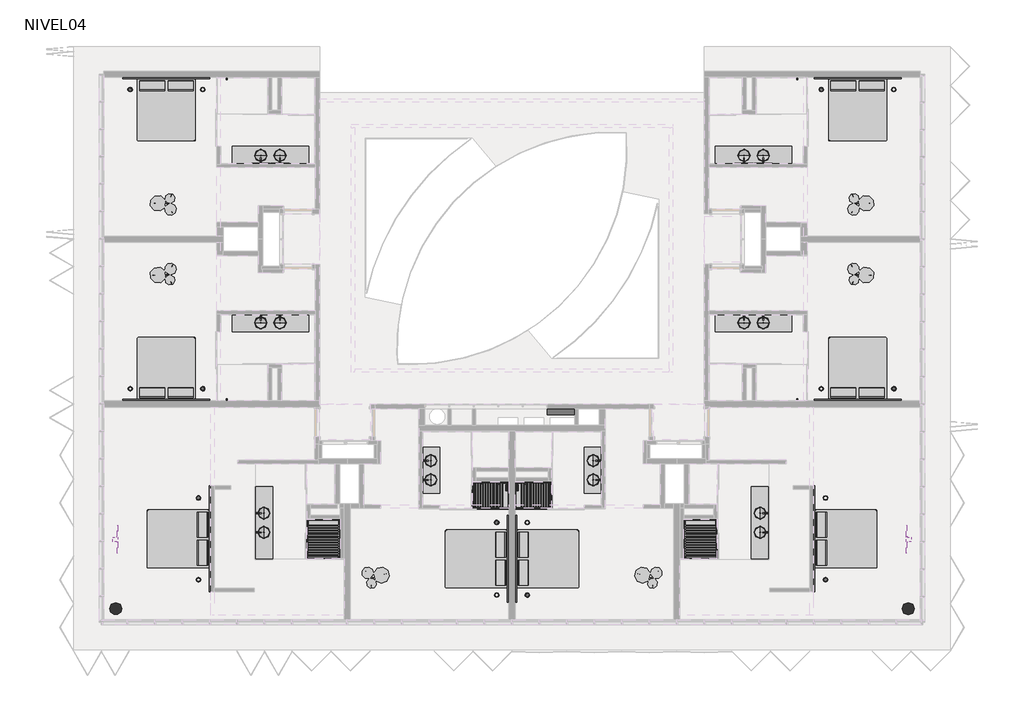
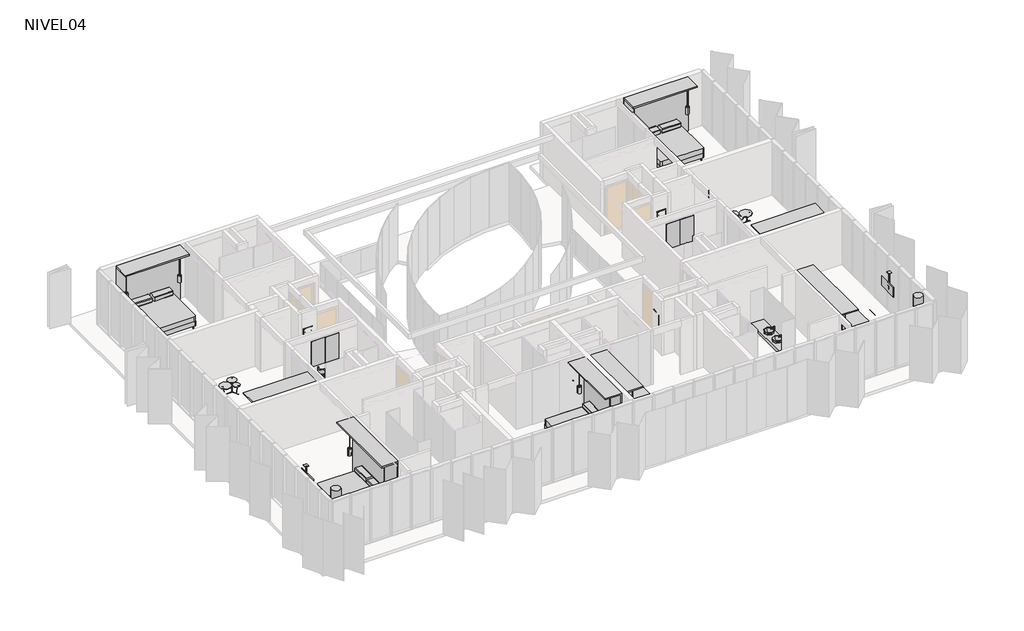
# One storey, part 8 of 8: 63 flow terminals, 16 light fixtures, 14 furniture elements, 10 beams, 10 proxies, 2 columns.
"""IFC4 building model written with IfcOpenShell, lengths in millimetres."""

from ifc_helpers import new_model, si_unit, frame, origin, place, context, project, spatial, polyline, outline, extrude, faceted_brep, transform, mapped, element, save
from components import proxy_f2abb529, proxy_77f56c46, gw40109_410x878x160_c00fe912, gw40109_410x878x160_de583994, m_round_column_d_400_48e12016, m_round_column_d_400_bf70b7f6, flow_terminal_0c8ecf02, flow_terminal_b279ac32, flow_terminal_ed776ef0, flow_terminal_606d7820, flow_terminal_b09b52e7, flow_terminal_6561b867, flow_terminal_bd7e037a, flow_terminal_74c15a22, flow_terminal_776c35a8, flow_terminal_72b990a2, flow_terminal_ff75b144, flow_terminal_cd0a1a3c, flow_terminal_6d8cc725, flow_terminal_ec843122, flow_terminal_4fa0bb3f, flow_terminal_b75d90eb, flow_terminal_60x_120_5cc20310, flow_terminal_60x_120_ec79c8a1, bottle_trap_flow_star_s_chrome_1cd5e6a8, bottle_trap_flow_star_s_chrome_f36f63c9, bottle_trap_flow_star_s_chrome_bf7072b5, bottle_trap_flow_star_s_chrome_7d8e5f45, gf_shower_mixer_5467fb75, gf_shower_mixer_4253410c, type_1_5bda6d84, furniture_922720f4, furniture_a362b857, furniture_83d6330f, furniture_52f5ca33, bubble_e683490c, bubble_cea61c99, lighting_fixture_pendant_contech_lighting_ci6_not_a_type_87ea05c9, lighting_fixture_pendant_contech_lighting_ci6_not_a_type_9c6e3dd4

model = new_model("IFC4")

# Units and contexts
model_context = context("Model", 3, world=origin())
ifc_project = project(units=[si_unit("LENGTHUNIT", "METRE", prefix="MILLI")], contexts=[model_context])

# Site, building, storey
site = spatial("IfcSite", under=ifc_project)
building = spatial("IfcBuilding", under=site)
storey = spatial("IfcBuildingStorey", under=building, Name="NIVEL04", Elevation=7940.0)

# Beams
placement = place(None, origin())
element("IfcBeam", 1, ObjectType="H-A- VIGAS RECTANGULARES : V. 40/30", at=placement, inside=storey, context=model_context, shape_type="SweptSolid", body=[
    extrude(outline(polyline([(-19978.5934748, 5233.9139241), (-20378.5934748, 5233.9139241), (-20378.5934748, 10433.9139241), (-19978.5934748, 10433.9139241), (-19978.5934748, 5233.9139241)])), frame((0.0, 0.0, 7620.0), z_axis=(0.0, 0.0, 1.0), x_axis=(1.0, 0.0, 0.0)), (0.0, 0.0, 1.0), 300.0),
])
element("IfcBeam", 2, ObjectType="H-A- VIGAS RECTANGULARES : V. 40/30", at=placement, inside=storey, context=model_context, shape_type="Brep", body=[
    faceted_brep([(5611.4065252, -7185.2015033, 7920.0), (5611.4065252, -7185.2015033, 7620.0), (6011.4065252, -7185.2015033, 7620.0), (6011.4065252, -7185.2015033, 7920.0), (6011.4065252, -166.0860759, 7920.0), (5611.4065252, -166.0860759, 7920.0), (5611.4065252, -6785.2015033, 7920.0), (6011.4065252, -166.0860759, 7620.0), (5611.4065252, -6785.2015033, 7620.0), (5611.4065252, -166.0860759, 7620.0)], [[[0, 1, 2, 3]], [[3, 4, 5, 6, 0]], [[2, 7, 4, 3]], [[1, 8, 9, 7, 2]], [[0, 6, 5, 9, 8, 1]], [[5, 4, 7, 9]]]),
])
element("IfcBeam", 3, ObjectType="H-A- VIGAS RECTANGULARES : V. 40/30", at=placement, inside=storey, context=model_context, shape_type="SweptSolid", body=[
    extrude(outline(polyline([(-1773.5934748, -7185.2015033), (-1773.5934748, -6785.2015033), (5611.4065252, -6785.2015033), (5611.4065252, -7185.2015033), (-1773.5934748, -7185.2015033)])), frame((0.0, 0.0, 7620.0), z_axis=(0.0, 0.0, 1.0), x_axis=(1.0, 0.0, 0.0)), (0.0, 0.0, 1.0), 300.0),
])
element("IfcBeam", 4, ObjectType="H-A- VIGAS RECTANGULARES : V. 40/30", at=placement, inside=storey, context=model_context, shape_type="Brep", body=[
    faceted_brep([(-20378.5934748, -7185.2015033, 7620.0), (-19978.5934748, -7185.2015033, 7620.0), (-19978.5934748, -7185.2015033, 7770.0), (-20378.5934748, -7185.2015033, 7770.0), (-20378.5934748, -166.0860759, 7620.0), (-20378.5934748, -166.0860759, 7770.0), (-19978.5934748, -166.0860759, 7620.0), (-19978.5934748, -6785.2015033, 7620.0), (-19978.5934748, -166.0860759, 7770.0)], [[[0, 1, 2, 3]], [[4, 0, 3, 5]], [[1, 0, 4, 6, 7]], [[1, 7, 6, 8, 2]], [[3, 2, 8, 5]], [[6, 4, 5, 8]]]),
])
element("IfcBeam", 5, ObjectType="H-A- VIGAS RECTANGULARES : V. 40/30", at=placement, inside=storey, context=model_context, shape_type="Brep", body=[
    faceted_brep([(-12593.5934748, -7185.2015033, 7920.0), (-12593.5934748, -6785.2015033, 7920.0), (-19978.5934748, -6785.2015033, 7920.0), (-19978.5934748, -7185.2015033, 7920.0), (-12593.5934748, -6785.2015033, 7620.0), (-19978.5934748, -6785.2015033, 7620.0), (-12593.5934748, -7185.2015033, 7620.0), (-19978.5934748, -7185.2015033, 7620.0), (-19978.5934748, -7185.2015033, 7770.0)], [[[0, 1, 2, 3]], [[1, 4, 5, 2]], [[4, 6, 7, 5]], [[6, 0, 3, 8, 7]], [[3, 2, 5, 7, 8]], [[0, 6, 4, 1]]]),
])
element("IfcBeam", 6, ObjectType="H-A- VIGAS RECTANGULARES : V. 40/30", at=placement, inside=storey, context=model_context, shape_type="SweptSolid", body=[
    extrude(outline(polyline([(-1773.5934748, -7185.2015033), (-7283.5934748, -7185.2015033), (-7283.5934748, -6785.2015033), (-1773.5934748, -6785.2015033), (-1773.5934748, -7185.2015033)])), frame((0.0, 0.0, 7620.0), z_axis=(0.0, 0.0, 1.0), x_axis=(1.0, 0.0, 0.0)), (0.0, 0.0, 1.0), 300.0),
])
element("IfcBeam", 7, ObjectType="H-A- VIGAS RECTANGULARES : V. 40/30", at=placement, inside=storey, context=model_context, shape_type="SweptSolid", body=[
    extrude(outline(polyline([(-12593.5934748, -7185.2015033), (-12593.5934748, -6785.2015033), (-7283.5934748, -6785.2015033), (-7283.5934748, -7185.2015033), (-12593.5934748, -7185.2015033)])), frame((0.0, 0.0, 7620.0), z_axis=(0.0, 0.0, 1.0), x_axis=(1.0, 0.0, 0.0)), (0.0, 0.0, 1.0), 300.0),
])
element("IfcBeam", 8, ObjectType="H-A- VIGAS RECTANGULARES : V. 40/30", at=placement, inside=storey, context=model_context, shape_type="SweptSolid", body=[
    extrude(outline(polyline([(5611.4065252, 5233.9139241), (5611.4065252, 10433.9139241), (6011.4065252, 10433.9139241), (6011.4065252, 5233.9139241), (5611.4065252, 5233.9139241)])), frame((0.0, 0.0, 7620.0), z_axis=(0.0, 0.0, 1.0), x_axis=(1.0, 0.0, 0.0)), (0.0, 0.0, 1.0), 300.0),
])
element("IfcBeam", 9, ObjectType="H-A- VIGAS RECTANGULARES : V. 40/30", at=placement, inside=storey, context=model_context, shape_type="Brep", body=[
    faceted_brep([(-20378.5934748, 5233.9139241, 7920.0), (-20378.5934748, -166.0860759, 7920.0), (-19978.5934748, -166.0860759, 7920.0), (-19978.5934748, 5233.9139241, 7920.0), (-20378.5934748, 5233.9139241, 7620.0), (-20378.5934748, -166.0860759, 7620.0), (-20378.5934748, -166.0860759, 7770.0), (-19978.5934748, 5233.9139241, 7620.0), (-19978.5934748, -166.0860759, 7620.0), (-19978.5934748, -166.0860759, 7770.0)], [[[0, 1, 2, 3]], [[4, 5, 6, 1, 0]], [[7, 8, 5, 4]], [[3, 2, 9, 8, 7]], [[3, 7, 4, 0]], [[2, 1, 6, 5, 8, 9]]]),
])
element("IfcBeam", 10, ObjectType="H-A- VIGAS RECTANGULARES : V. 40/30", at=placement, inside=storey, context=model_context, shape_type="SweptSolid", body=[
    extrude(outline(polyline([(5611.4065252, 5233.9139241), (6011.4065252, 5233.9139241), (6011.4065252, -166.0860759), (5611.4065252, -166.0860759), (5611.4065252, 5233.9139241)])), frame((0.0, 0.0, 7620.0), z_axis=(0.0, 0.0, 1.0), x_axis=(1.0, 0.0, 0.0)), (0.0, 0.0, 1.0), 300.0),
])

# Proxies
proxy_shape = proxy_f2abb529(model_context)
element("IfcBuildingElementProxy", 11, Name="A5215 - Bracket, Television, Ceiling Mounted 36 x 6 : A5215 - Bracket, Television, Ceiling Mounted 36\"x 6\"", ObjectType="A5215 - Bracket, Television, Ceiling Mounted 36 x 6 : A5215 - Bracket, Television, Ceiling Mounted 36\"x 6\"", at=placement, inside=storey, context=model_context, shape_type="MappedRepresentation", body=[
    mapped(proxy_shape, transform((6192.4065252, -5081.9984384, 9476.4), x_axis=(0.0, -1.0, 0.0), y_axis=(1.0, 0.0, 0.0), z_axis=(0.0, 0.0, 1.0))),
])
proxy_2_shape = proxy_77f56c46(model_context)
element("IfcBuildingElementProxy", 12, Name="A5215 - Bracket, Television, Ceiling Mounted 36 x 6 : A5215 - Bracket, Television, Ceiling Mounted 36\"x 6\"", ObjectType="A5215 - Bracket, Television, Ceiling Mounted 36 x 6 : A5215 - Bracket, Television, Ceiling Mounted 36\"x 6\"", at=placement, inside=storey, context=model_context, shape_type="MappedRepresentation", body=[
    mapped(proxy_2_shape, transform((-20559.5934748, -5081.9984384, 9476.4), x_axis=(0.0, -1.0, 0.0), y_axis=(1.0, 0.0, 0.0), z_axis=(0.0, 0.0, 1.0))),
])
gw40109_410x878x160_shape = gw40109_410x878x160_c00fe912(model_context)
element("IfcBuildingElementProxy", 13, Name="Building-ContenitoriParete-GEWISS-40CDK-CENTRALINI_IP65_4X : GW40109 - 410x878x160", ObjectType="Building-ContenitoriParete-GEWISS-40CDK-CENTRALINI_IP65_4X : GW40109 - 410x878x160", at=placement, inside=storey, context=model_context, shape_type="MappedRepresentation", body=[
    mapped(gw40109_410x878x160_shape, transform((-2718.5934748, -1918.4487945, 8690.0), x_axis=(0.0, 1.0, 0.0), y_axis=(-1.0, 0.0, 0.0), z_axis=(0.0, 0.0, 1.0))),
])
gw40109_410x878x160_2_shape = gw40109_410x878x160_de583994(model_context)
element("IfcBuildingElementProxy", 14, Name="Building-ContenitoriParete-GEWISS-40CDK-CENTRALINI_IP65_4X : GW40109 - 410x878x160", ObjectType="Building-ContenitoriParete-GEWISS-40CDK-CENTRALINI_IP65_4X : GW40109 - 410x878x160", at=placement, inside=storey, context=model_context, shape_type="MappedRepresentation", body=[
    mapped(gw40109_410x878x160_2_shape, transform((-11648.5934748, -1918.4487945, 8690.0), x_axis=(0.0, 1.0, 0.0), y_axis=(-1.0, 0.0, 0.0), z_axis=(0.0, 0.0, 1.0))),
])
element("IfcBuildingElementProxy", 15, Name="Building-ContenitoriParete-GEWISS-40CDK-CENTRALINI_IP65_4X : GW40109 - 410x878x160", ObjectType="Building-ContenitoriParete-GEWISS-40CDK-CENTRALINI_IP65_4X : GW40109 - 410x878x160", at=placement, inside=storey, context=model_context, shape_type="MappedRepresentation", body=[
    mapped(gw40109_410x878x160_shape, transform((-888.5934748, -1668.4487945, 8690.0), x_axis=(0.0, -1.0, 0.0), y_axis=(1.0, 0.0, 0.0), z_axis=(0.0, 0.0, 1.0))),
])
element("IfcBuildingElementProxy", 16, Name="Building-ContenitoriParete-GEWISS-40CDK-CENTRALINI_IP65_4X : GW40109 - 410x878x160", ObjectType="Building-ContenitoriParete-GEWISS-40CDK-CENTRALINI_IP65_4X : GW40109 - 410x878x160", at=placement, inside=storey, context=model_context, shape_type="MappedRepresentation", body=[
    mapped(gw40109_410x878x160_shape, transform((572.0878844, 6068.9139241, 8690.0), x_axis=(1.0, 0.0, 0.0), y_axis=(0.0, 1.0, 0.0), z_axis=(0.0, 0.0, 1.0))),
])
element("IfcBuildingElementProxy", 17, Name="Building-ContenitoriParete-GEWISS-40CDK-CENTRALINI_IP65_4X : GW40109 - 410x878x160", ObjectType="Building-ContenitoriParete-GEWISS-40CDK-CENTRALINI_IP65_4X : GW40109 - 410x878x160", at=placement, inside=storey, context=model_context, shape_type="MappedRepresentation", body=[
    mapped(gw40109_410x878x160_shape, transform((-14939.2748341, 4198.9139241, 8690.0), x_axis=(-1.0, 0.0, 0.0), y_axis=(0.0, -1.0, 0.0), z_axis=(0.0, 0.0, 1.0))),
])
element("IfcBuildingElementProxy", 18, Name="Building-ContenitoriParete-GEWISS-40CDK-CENTRALINI_IP65_4X : GW40109 - 410x878x160", ObjectType="Building-ContenitoriParete-GEWISS-40CDK-CENTRALINI_IP65_4X : GW40109 - 410x878x160", at=placement, inside=storey, context=model_context, shape_type="MappedRepresentation", body=[
    mapped(gw40109_410x878x160_2_shape, transform((-13478.5934748, -1668.4487945, 8690.0), x_axis=(0.0, -1.0, 0.0), y_axis=(1.0, 0.0, 0.0), z_axis=(0.0, 0.0, 1.0))),
])
element("IfcBuildingElementProxy", 19, Name="Building-ContenitoriParete-GEWISS-40CDK-CENTRALINI_IP65_4X : GW40109 - 410x878x160", ObjectType="Building-ContenitoriParete-GEWISS-40CDK-CENTRALINI_IP65_4X : GW40109 - 410x878x160", at=placement, inside=storey, context=model_context, shape_type="MappedRepresentation", body=[
    mapped(gw40109_410x878x160_2_shape, transform((-14939.2748341, 6068.9139241, 8690.0), x_axis=(-1.0, 0.0, 0.0), y_axis=(0.0, -1.0, 0.0), z_axis=(0.0, 0.0, 1.0))),
])
element("IfcBuildingElementProxy", 20, Name="Building-ContenitoriParete-GEWISS-40CDK-CENTRALINI_IP65_4X : GW40109 - 410x878x160", ObjectType="Building-ContenitoriParete-GEWISS-40CDK-CENTRALINI_IP65_4X : GW40109 - 410x878x160", at=placement, inside=storey, context=model_context, shape_type="MappedRepresentation", body=[
    mapped(gw40109_410x878x160_2_shape, transform((572.0878844, 4198.9139241, 8690.0), x_axis=(1.0, 0.0, 0.0), y_axis=(0.0, 1.0, 0.0), z_axis=(0.0, 0.0, 1.0))),
])

# Columns
m_round_column_d_400_shape = m_round_column_d_400_48e12016(model_context)
element("IfcColumn", 21, ObjectType="M_Round Column : D-400", at=placement, inside=storey, context=model_context, shape_type="MappedRepresentation", body=[
    mapped(m_round_column_d_400_shape, transform((5797.2643895, -6971.0593676, 0.0), x_axis=(-1.0, 0.0, 0.0), y_axis=(0.0, -1.0, 0.0), z_axis=(0.0, 0.0, 1.0))),
])
m_round_column_d_400_2_shape = m_round_column_d_400_bf70b7f6(model_context)
element("IfcColumn", 22, ObjectType="M_Round Column : D-400", at=placement, inside=storey, context=model_context, shape_type="MappedRepresentation", body=[
    mapped(m_round_column_d_400_2_shape, transform((-20164.4513392, -6971.0593676, 0.0), x_axis=(1.0, 0.0, 0.0), y_axis=(0.0, 1.0, 0.0), z_axis=(0.0, 0.0, 1.0))),
])

# Flow terminals
flow_terminal_shape = flow_terminal_0c8ecf02(model_context)
element("IfcFlowTerminal", 23, ObjectType="Sanitary_Shower-trays_Cosentino_Kador : Kador_130*125", at=placement, inside=storey, context=model_context, shape_type="MappedRepresentation", body=[
    mapped(flow_terminal_shape, transform((-13363.5934748, -4686.0862189, 7940.0), x_axis=(0.0, -1.0, 0.0), y_axis=(1.0, 0.0, 0.0), z_axis=(0.0, 0.0, 1.0))),
])
flow_terminal_2_shape = flow_terminal_b279ac32(model_context)
element("IfcFlowTerminal", 24, ObjectType="Sanitary_Shower-trays_Cosentino_Kador : Kador_130*125", at=placement, inside=storey, context=model_context, shape_type="MappedRepresentation", body=[
    mapped(flow_terminal_2_shape, transform((-1003.5934748, -4686.0862189, 7940.0), x_axis=(0.0, -1.0, 0.0), y_axis=(1.0, 0.0, 0.0), z_axis=(0.0, 0.0, 1.0))),
])
flow_terminal_3_shape = flow_terminal_ed776ef0(model_context)
element("IfcFlowTerminal", 25, ObjectType="Sanitary_Shower-trays_Cosentino_Kador : Kador_130*125", at=placement, inside=storey, context=model_context, shape_type="MappedRepresentation", body=[
    mapped(flow_terminal_3_shape, transform((-7883.5934748, -3256.0362189, 7940.0), x_axis=(-1.0, 0.0, 0.0), y_axis=(0.0, -1.0, 0.0), z_axis=(0.0, 0.0, 1.0))),
])
flow_terminal_4_shape = flow_terminal_606d7820(model_context)
element("IfcFlowTerminal", 26, ObjectType="Sanitary_Shower-trays_Cosentino_Kador : Kador_130*125", at=placement, inside=storey, context=model_context, shape_type="MappedRepresentation", body=[
    mapped(flow_terminal_4_shape, transform((-6483.5934748, -3256.0362189, 7940.0), x_axis=(1.0, 0.0, 0.0), y_axis=(0.0, 1.0, 0.0), z_axis=(0.0, 0.0, 1.0))),
])
flow_terminal_5_shape = flow_terminal_b09b52e7(model_context)
element("IfcFlowTerminal", 27, ObjectType="CUBIERTA BAÑO : CUBIERTA BAÑO 150CM", at=placement, inside=storey, context=model_context, shape_type="MappedRepresentation", body=[
    mapped(flow_terminal_5_shape, transform((-10123.5934748, -2480.7864739, 7940.0), x_axis=(0.0, 1.0, 0.0), y_axis=(-1.0, 0.0, 0.0), z_axis=(0.0, 0.0, 1.0))),
])
flow_terminal_6_shape = flow_terminal_6561b867(model_context)
element("IfcFlowTerminal", 28, ObjectType="CUBIERTA BAÑO : CUBIERTA BAÑO 250CM", at=placement, inside=storey, context=model_context, shape_type="MappedRepresentation", body=[
    mapped(flow_terminal_6_shape, transform((776.1068516, 7593.9139241, 7920.0), x_axis=(-1.0, 0.0, 0.0), y_axis=(0.0, -1.0, 0.0), z_axis=(0.0, 0.0, 1.0))),
])
element("IfcFlowTerminal", 29, ObjectType="CUBIERTA BAÑO : CUBIERTA BAÑO 250CM", at=placement, inside=storey, context=model_context, shape_type="MappedRepresentation", body=[
    mapped(flow_terminal_6_shape, transform((-15143.2938013, 2673.9139241, 7920.0), x_axis=(1.0, 0.0, 0.0), y_axis=(0.0, 1.0, 0.0), z_axis=(0.0, 0.0, 1.0))),
])
flow_terminal_7_shape = flow_terminal_bd7e037a(model_context)
element("IfcFlowTerminal", 30, ObjectType="GF_TINA-LAVAMANOS : MEZCLADOR MONOMANDO DE LAVABO - MINUSVALIDOS", at=placement, inside=storey, context=model_context, shape_type="MappedRepresentation", body=[
    mapped(flow_terminal_7_shape, transform((-10073.5934748, -2751.0861474, 8690.0), x_axis=(0.0, 1.0, 0.0), y_axis=(-1.0, 0.0, 0.0), z_axis=(0.0, 0.0, 1.0))),
])
element("IfcFlowTerminal", 31, ObjectType="GF_TINA-LAVAMANOS : MEZCLADOR MONOMANDO DE LAVABO - MINUSVALIDOS", at=placement, inside=storey, context=model_context, shape_type="MappedRepresentation", body=[
    mapped(flow_terminal_7_shape, transform((-10073.5934748, -2121.0861474, 8690.0), x_axis=(0.0, 1.0, 0.0), y_axis=(-1.0, 0.0, 0.0), z_axis=(0.0, 0.0, 1.0))),
])
element("IfcFlowTerminal", 32, ObjectType="GF_TINA-LAVAMANOS : MEZCLADOR MONOMANDO DE LAVABO - MINUSVALIDOS", at=placement, inside=storey, context=model_context, shape_type="MappedRepresentation", body=[
    mapped(flow_terminal_7_shape, transform((-15543.5934748, -4471.0860763, 8690.0), x_axis=(0.0, 1.0, 0.0), y_axis=(-1.0, 0.0, 0.0), z_axis=(0.0, 0.0, 1.0))),
])
element("IfcFlowTerminal", 33, ObjectType="GF_TINA-LAVAMANOS : MEZCLADOR MONOMANDO DE LAVABO - MINUSVALIDOS", at=placement, inside=storey, context=model_context, shape_type="MappedRepresentation", body=[
    mapped(flow_terminal_7_shape, transform((-15543.5934748, -3841.0860763, 8690.0), x_axis=(0.0, 1.0, 0.0), y_axis=(-1.0, 0.0, 0.0), z_axis=(0.0, 0.0, 1.0))),
])
element("IfcFlowTerminal", 34, ObjectType="GF_TINA-LAVAMANOS : MEZCLADOR MONOMANDO DE LAVABO - MINUSVALIDOS", at=placement, inside=storey, context=model_context, shape_type="MappedRepresentation", body=[
    mapped(flow_terminal_7_shape, transform((1046.4065252, 7643.9139241, 8670.0), x_axis=(-1.0, 0.0, 0.0), y_axis=(0.0, -1.0, 0.0), z_axis=(0.0, 0.0, 1.0))),
])
element("IfcFlowTerminal", 35, ObjectType="GF_TINA-LAVAMANOS : MEZCLADOR MONOMANDO DE LAVABO - MINUSVALIDOS", at=placement, inside=storey, context=model_context, shape_type="MappedRepresentation", body=[
    mapped(flow_terminal_7_shape, transform((416.4065252, 7643.9139241, 8670.0), x_axis=(-1.0, 0.0, 0.0), y_axis=(0.0, -1.0, 0.0), z_axis=(0.0, 0.0, 1.0))),
])
element("IfcFlowTerminal", 36, ObjectType="GF_TINA-LAVAMANOS : MEZCLADOR MONOMANDO DE LAVABO - MINUSVALIDOS", at=placement, inside=storey, context=model_context, shape_type="MappedRepresentation", body=[
    mapped(flow_terminal_7_shape, transform((-15413.5934748, 2623.9139241, 8670.0), x_axis=(1.0, 0.0, 0.0), y_axis=(0.0, 1.0, 0.0), z_axis=(0.0, 0.0, 1.0))),
])
element("IfcFlowTerminal", 37, ObjectType="GF_TINA-LAVAMANOS : MEZCLADOR MONOMANDO DE LAVABO - MINUSVALIDOS", at=placement, inside=storey, context=model_context, shape_type="MappedRepresentation", body=[
    mapped(flow_terminal_7_shape, transform((-14783.5934748, 2623.9139241, 8670.0), x_axis=(1.0, 0.0, 0.0), y_axis=(0.0, 1.0, 0.0), z_axis=(0.0, 0.0, 1.0))),
])
flow_terminal_8_shape = flow_terminal_74c15a22(model_context)
element("IfcFlowTerminal", 38, ObjectType="GF_TINA-LAVAMANOS : MEZCLADOR MONOMANDO DE LAVABO - MINUSVALIDOS", at=placement, inside=storey, context=model_context, shape_type="MappedRepresentation", body=[
    mapped(flow_terminal_8_shape, transform((-15413.5934748, 7643.9139241, 8670.0), x_axis=(1.0, 0.0, 0.0), y_axis=(0.0, 1.0, 0.0), z_axis=(0.0, 0.0, 1.0))),
])
element("IfcFlowTerminal", 39, ObjectType="GF_TINA-LAVAMANOS : MEZCLADOR MONOMANDO DE LAVABO - MINUSVALIDOS", at=placement, inside=storey, context=model_context, shape_type="MappedRepresentation", body=[
    mapped(flow_terminal_8_shape, transform((-14783.5934748, 7643.9139241, 8670.0), x_axis=(1.0, 0.0, 0.0), y_axis=(0.0, 1.0, 0.0), z_axis=(0.0, 0.0, 1.0))),
])
element("IfcFlowTerminal", 40, ObjectType="GF_TINA-LAVAMANOS : MEZCLADOR MONOMANDO DE LAVABO - MINUSVALIDOS", at=placement, inside=storey, context=model_context, shape_type="MappedRepresentation", body=[
    mapped(flow_terminal_8_shape, transform((-4293.5934748, -2751.0861474, 8690.0), x_axis=(0.0, 1.0, 0.0), y_axis=(-1.0, 0.0, 0.0), z_axis=(0.0, 0.0, 1.0))),
])
element("IfcFlowTerminal", 41, ObjectType="GF_TINA-LAVAMANOS : MEZCLADOR MONOMANDO DE LAVABO - MINUSVALIDOS", at=placement, inside=storey, context=model_context, shape_type="MappedRepresentation", body=[
    mapped(flow_terminal_8_shape, transform((-4293.5934748, -2121.0861474, 8690.0), x_axis=(0.0, 1.0, 0.0), y_axis=(-1.0, 0.0, 0.0), z_axis=(0.0, 0.0, 1.0))),
])
element("IfcFlowTerminal", 42, ObjectType="GF_TINA-LAVAMANOS : MEZCLADOR MONOMANDO DE LAVABO - MINUSVALIDOS", at=placement, inside=storey, context=model_context, shape_type="MappedRepresentation", body=[
    mapped(flow_terminal_8_shape, transform((1176.4065252, -4471.0860763, 8690.0), x_axis=(0.0, 1.0, 0.0), y_axis=(-1.0, 0.0, 0.0), z_axis=(0.0, 0.0, 1.0))),
])
element("IfcFlowTerminal", 43, ObjectType="GF_TINA-LAVAMANOS : MEZCLADOR MONOMANDO DE LAVABO - MINUSVALIDOS", at=placement, inside=storey, context=model_context, shape_type="MappedRepresentation", body=[
    mapped(flow_terminal_8_shape, transform((1176.4065252, -3841.0860763, 8690.0), x_axis=(0.0, 1.0, 0.0), y_axis=(-1.0, 0.0, 0.0), z_axis=(0.0, 0.0, 1.0))),
])
element("IfcFlowTerminal", 44, ObjectType="GF_TINA-LAVAMANOS : MEZCLADOR MONOMANDO DE LAVABO - MINUSVALIDOS", at=placement, inside=storey, context=model_context, shape_type="MappedRepresentation", body=[
    mapped(flow_terminal_8_shape, transform((1046.4065252, 2623.9139241, 8670.0), x_axis=(-1.0, 0.0, 0.0), y_axis=(0.0, -1.0, 0.0), z_axis=(0.0, 0.0, 1.0))),
])
element("IfcFlowTerminal", 45, ObjectType="GF_TINA-LAVAMANOS : MEZCLADOR MONOMANDO DE LAVABO - MINUSVALIDOS", at=placement, inside=storey, context=model_context, shape_type="MappedRepresentation", body=[
    mapped(flow_terminal_8_shape, transform((416.4065252, 2623.9139241, 8670.0), x_axis=(-1.0, 0.0, 0.0), y_axis=(0.0, -1.0, 0.0), z_axis=(0.0, 0.0, 1.0))),
])
flow_terminal_9_shape = flow_terminal_776c35a8(model_context)
element("IfcFlowTerminal", 46, ObjectType="CUBIERTA BAÑO : CUBIERTA BAÑO 238CM", at=placement, inside=storey, context=model_context, shape_type="MappedRepresentation", body=[
    mapped(flow_terminal_9_shape, transform((-15593.5934748, -4200.7864027, 7940.0), x_axis=(0.0, 1.0, 0.0), y_axis=(-1.0, 0.0, 0.0), z_axis=(0.0, 0.0, 1.0))),
])
flow_terminal_10_shape = flow_terminal_72b990a2(model_context)
element("IfcFlowTerminal", 47, ObjectType="jabonera rejilla : jabonera rejilla", at=placement, inside=storey, context=model_context, shape_type="MappedRepresentation", body=[
    mapped(flow_terminal_10_shape, transform((-7293.5934748, -3006.0862189, 8890.0), x_axis=(0.0, -1.0, 0.0), y_axis=(1.0, 0.0, 0.0), z_axis=(0.0, 0.0, 1.0))),
])
flow_terminal_11_shape = flow_terminal_ff75b144(model_context)
element("IfcFlowTerminal", 48, ObjectType="CUBIERTA BAÑO : CUBIERTA BAÑO 150CM", at=placement, inside=storey, context=model_context, shape_type="MappedRepresentation", body=[
    mapped(flow_terminal_11_shape, transform((-4243.5934748, -2480.7864739, 7940.0), x_axis=(0.0, 1.0, 0.0), y_axis=(-1.0, 0.0, 0.0), z_axis=(0.0, 0.0, 1.0))),
])
flow_terminal_12_shape = flow_terminal_cd0a1a3c(model_context)
element("IfcFlowTerminal", 49, ObjectType="CUBIERTA BAÑO : CUBIERTA BAÑO 250CM", at=placement, inside=storey, context=model_context, shape_type="MappedRepresentation", body=[
    mapped(flow_terminal_12_shape, transform((-15143.2938013, 7593.9139241, 7920.0), x_axis=(1.0, 0.0, 0.0), y_axis=(0.0, 1.0, 0.0), z_axis=(0.0, 0.0, 1.0))),
])
element("IfcFlowTerminal", 50, ObjectType="CUBIERTA BAÑO : CUBIERTA BAÑO 250CM", at=placement, inside=storey, context=model_context, shape_type="MappedRepresentation", body=[
    mapped(flow_terminal_12_shape, transform((776.1068516, 2673.9139241, 7920.0), x_axis=(-1.0, 0.0, 0.0), y_axis=(0.0, -1.0, 0.0), z_axis=(0.0, 0.0, 1.0))),
])
flow_terminal_13_shape = flow_terminal_6d8cc725(model_context)
element("IfcFlowTerminal", 51, ObjectType="CUBIERTA BAÑO : CUBIERTA BAÑO 238CM", at=placement, inside=storey, context=model_context, shape_type="MappedRepresentation", body=[
    mapped(flow_terminal_13_shape, transform((1226.4065252, -4200.7864027, 7940.0), x_axis=(0.0, 1.0, 0.0), y_axis=(-1.0, 0.0, 0.0), z_axis=(0.0, 0.0, 1.0))),
])
flow_terminal_14_shape = flow_terminal_ec843122(model_context)
element("IfcFlowTerminal", 52, ObjectType="GrapBar-60cm-Vitra-OtherSeries-320-3010 : SupportRail-Vitra-OtherSeries-320-3010", at=placement, inside=storey, context=model_context, shape_type="MappedRepresentation", body=[
    mapped(flow_terminal_14_shape, transform((-7623.5047394, -2806.0860759, 9300.0), x_axis=(-1.0, 0.0, 0.0), y_axis=(0.0, 0.0, -1.0), z_axis=(0.0, -1.0, 0.0))),
])
flow_terminal_15_shape = flow_terminal_4fa0bb3f(model_context)
element("IfcFlowTerminal", 53, ObjectType="jabonera rejilla : jabonera rejilla", at=placement, inside=storey, context=model_context, shape_type="MappedRepresentation", body=[
    mapped(flow_terminal_15_shape, transform((-7073.5934748, -3006.0862189, 8890.0), x_axis=(0.0, -1.0, 0.0), y_axis=(1.0, 0.0, 0.0), z_axis=(0.0, 0.0, 1.0))),
])
flow_terminal_16_shape = flow_terminal_b75d90eb(model_context)
element("IfcFlowTerminal", 54, ObjectType="GrapBar-60cm-Vitra-OtherSeries-320-3010 : SupportRail-Vitra-OtherSeries-320-3010", at=placement, inside=storey, context=model_context, shape_type="MappedRepresentation", body=[
    mapped(flow_terminal_16_shape, transform((-6743.6822103, -2806.0860759, 9300.0), x_axis=(1.0, 0.0, 0.0), y_axis=(0.0, 0.0, 1.0), z_axis=(0.0, -1.0, 0.0))),
])
flow_terminal_60x_120_shape = flow_terminal_60x_120_5cc20310(model_context)
element("IfcFlowTerminal", 55, ObjectType="ESPEJO RECTANGULAR : 60x 120", at=placement, inside=storey, context=model_context, shape_type="MappedRepresentation", body=[
    mapped(flow_terminal_60x_120_shape, transform((-15413.5934748, 7598.9139241, 8340.0), x_axis=(1.0, 0.0, 0.0), y_axis=(0.0, 1.0, 0.0), z_axis=(0.0, 0.0, 1.0))),
])
element("IfcFlowTerminal", 56, ObjectType="ESPEJO RECTANGULAR : 60x 120", at=placement, inside=storey, context=model_context, shape_type="MappedRepresentation", body=[
    mapped(flow_terminal_60x_120_shape, transform((-14783.5934748, 7598.9139241, 8340.0), x_axis=(1.0, 0.0, 0.0), y_axis=(0.0, 1.0, 0.0), z_axis=(0.0, 0.0, 1.0))),
])
element("IfcFlowTerminal", 57, ObjectType="ESPEJO RECTANGULAR : 60x 120", at=placement, inside=storey, context=model_context, shape_type="MappedRepresentation", body=[
    mapped(flow_terminal_60x_120_shape, transform((1046.4065252, 2668.9139241, 8340.0), x_axis=(-1.0, 0.0, 0.0), y_axis=(0.0, -1.0, 0.0), z_axis=(0.0, 0.0, 1.0))),
])
element("IfcFlowTerminal", 58, ObjectType="ESPEJO RECTANGULAR : 60x 120", at=placement, inside=storey, context=model_context, shape_type="MappedRepresentation", body=[
    mapped(flow_terminal_60x_120_shape, transform((416.4065252, 2668.9139241, 8340.0), x_axis=(-1.0, 0.0, 0.0), y_axis=(0.0, -1.0, 0.0), z_axis=(0.0, 0.0, 1.0))),
])
flow_terminal_60x_120_2_shape = flow_terminal_60x_120_ec79c8a1(model_context)
element("IfcFlowTerminal", 59, ObjectType="ESPEJO RECTANGULAR : 60x 120", at=placement, inside=storey, context=model_context, shape_type="MappedRepresentation", body=[
    mapped(flow_terminal_60x_120_2_shape, transform((1046.4065252, 7598.9139241, 8340.0), x_axis=(-1.0, 0.0, 0.0), y_axis=(0.0, -1.0, 0.0), z_axis=(0.0, 0.0, 1.0))),
])
element("IfcFlowTerminal", 60, ObjectType="ESPEJO RECTANGULAR : 60x 120", at=placement, inside=storey, context=model_context, shape_type="MappedRepresentation", body=[
    mapped(flow_terminal_60x_120_2_shape, transform((416.4065252, 7598.9139241, 8340.0), x_axis=(-1.0, 0.0, 0.0), y_axis=(0.0, -1.0, 0.0), z_axis=(0.0, 0.0, 1.0))),
])
element("IfcFlowTerminal", 61, ObjectType="ESPEJO RECTANGULAR : 60x 120", at=placement, inside=storey, context=model_context, shape_type="MappedRepresentation", body=[
    mapped(flow_terminal_60x_120_2_shape, transform((-15413.5934748, 2668.9139241, 8340.0), x_axis=(1.0, 0.0, 0.0), y_axis=(0.0, 1.0, 0.0), z_axis=(0.0, 0.0, 1.0))),
])
element("IfcFlowTerminal", 62, ObjectType="ESPEJO RECTANGULAR : 60x 120", at=placement, inside=storey, context=model_context, shape_type="MappedRepresentation", body=[
    mapped(flow_terminal_60x_120_2_shape, transform((-14783.5934748, 2668.9139241, 8340.0), x_axis=(1.0, 0.0, 0.0), y_axis=(0.0, 1.0, 0.0), z_axis=(0.0, 0.0, 1.0))),
])
bottle_trap_flow_star_s_chrome_shape = bottle_trap_flow_star_s_chrome_1cd5e6a8(model_context)
element("IfcFlowTerminal", 63, ObjectType="GF_SIFON-VESILUKKO FLOWSTAR S KROMI : Bottle trap Flow Star S chrome", at=placement, inside=storey, context=model_context, shape_type="MappedRepresentation", body=[
    mapped(bottle_trap_flow_star_s_chrome_shape, transform((-9843.5934748, -2121.0861474, 8248.0), x_axis=(1.0, 0.0, 0.0), y_axis=(0.0, 1.0, 0.0), z_axis=(0.0, 0.0, 1.0))),
])
element("IfcFlowTerminal", 64, ObjectType="GF_SIFON-VESILUKKO FLOWSTAR S KROMI : Bottle trap Flow Star S chrome", at=placement, inside=storey, context=model_context, shape_type="MappedRepresentation", body=[
    mapped(bottle_trap_flow_star_s_chrome_shape, transform((-9843.5934748, -2751.0861474, 8248.0), x_axis=(1.0, 0.0, 0.0), y_axis=(0.0, 1.0, 0.0), z_axis=(0.0, 0.0, 1.0))),
])
element("IfcFlowTerminal", 65, ObjectType="GF_SIFON-VESILUKKO FLOWSTAR S KROMI : Bottle trap Flow Star S chrome", at=placement, inside=storey, context=model_context, shape_type="MappedRepresentation", body=[
    mapped(bottle_trap_flow_star_s_chrome_shape, transform((416.4065252, 7873.9139241, 8228.0), x_axis=(0.0, 1.0, 0.0), y_axis=(-1.0, 0.0, 0.0), z_axis=(0.0, 0.0, 1.0))),
])
element("IfcFlowTerminal", 66, ObjectType="GF_SIFON-VESILUKKO FLOWSTAR S KROMI : Bottle trap Flow Star S chrome", at=placement, inside=storey, context=model_context, shape_type="MappedRepresentation", body=[
    mapped(bottle_trap_flow_star_s_chrome_shape, transform((1046.4065252, 7873.9139241, 8228.0), x_axis=(0.0, 1.0, 0.0), y_axis=(-1.0, 0.0, 0.0), z_axis=(0.0, 0.0, 1.0))),
])
element("IfcFlowTerminal", 67, ObjectType="GF_SIFON-VESILUKKO FLOWSTAR S KROMI : Bottle trap Flow Star S chrome", at=placement, inside=storey, context=model_context, shape_type="MappedRepresentation", body=[
    mapped(bottle_trap_flow_star_s_chrome_shape, transform((-14783.5934748, 2393.9139241, 8228.0), x_axis=(0.0, -1.0, 0.0), y_axis=(1.0, 0.0, 0.0), z_axis=(0.0, 0.0, 1.0))),
])
element("IfcFlowTerminal", 68, ObjectType="GF_SIFON-VESILUKKO FLOWSTAR S KROMI : Bottle trap Flow Star S chrome", at=placement, inside=storey, context=model_context, shape_type="MappedRepresentation", body=[
    mapped(bottle_trap_flow_star_s_chrome_shape, transform((-15413.5934748, 2393.9139241, 8228.0), x_axis=(0.0, -1.0, 0.0), y_axis=(1.0, 0.0, 0.0), z_axis=(0.0, 0.0, 1.0))),
])
bottle_trap_flow_star_s_chrome_2_shape = bottle_trap_flow_star_s_chrome_f36f63c9(model_context)
element("IfcFlowTerminal", 69, ObjectType="GF_SIFON-VESILUKKO FLOWSTAR S KROMI : Bottle trap Flow Star S chrome", at=placement, inside=storey, context=model_context, shape_type="MappedRepresentation", body=[
    mapped(bottle_trap_flow_star_s_chrome_2_shape, transform((-14783.5934748, 7873.9139241, 8228.0), x_axis=(0.0, 1.0, 0.0), y_axis=(-1.0, 0.0, 0.0), z_axis=(0.0, 0.0, 1.0))),
])
element("IfcFlowTerminal", 70, ObjectType="GF_SIFON-VESILUKKO FLOWSTAR S KROMI : Bottle trap Flow Star S chrome", at=placement, inside=storey, context=model_context, shape_type="MappedRepresentation", body=[
    mapped(bottle_trap_flow_star_s_chrome_2_shape, transform((-4523.5934748, -2121.0861474, 8248.0), x_axis=(-1.0, 0.0, 0.0), y_axis=(0.0, -1.0, 0.0), z_axis=(0.0, 0.0, 1.0))),
])
element("IfcFlowTerminal", 71, ObjectType="GF_SIFON-VESILUKKO FLOWSTAR S KROMI : Bottle trap Flow Star S chrome", at=placement, inside=storey, context=model_context, shape_type="MappedRepresentation", body=[
    mapped(bottle_trap_flow_star_s_chrome_2_shape, transform((-4523.5934748, -2751.0861474, 8248.0), x_axis=(-1.0, 0.0, 0.0), y_axis=(0.0, -1.0, 0.0), z_axis=(0.0, 0.0, 1.0))),
])
element("IfcFlowTerminal", 72, ObjectType="GF_SIFON-VESILUKKO FLOWSTAR S KROMI : Bottle trap Flow Star S chrome", at=placement, inside=storey, context=model_context, shape_type="MappedRepresentation", body=[
    mapped(bottle_trap_flow_star_s_chrome_2_shape, transform((-15413.5934748, 7873.9139241, 8228.0), x_axis=(0.0, 1.0, 0.0), y_axis=(-1.0, 0.0, 0.0), z_axis=(0.0, 0.0, 1.0))),
])
element("IfcFlowTerminal", 73, ObjectType="GF_SIFON-VESILUKKO FLOWSTAR S KROMI : Bottle trap Flow Star S chrome", at=placement, inside=storey, context=model_context, shape_type="MappedRepresentation", body=[
    mapped(bottle_trap_flow_star_s_chrome_2_shape, transform((416.4065252, 2393.9139241, 8228.0), x_axis=(0.0, -1.0, 0.0), y_axis=(1.0, 0.0, 0.0), z_axis=(0.0, 0.0, 1.0))),
])
element("IfcFlowTerminal", 74, ObjectType="GF_SIFON-VESILUKKO FLOWSTAR S KROMI : Bottle trap Flow Star S chrome", at=placement, inside=storey, context=model_context, shape_type="MappedRepresentation", body=[
    mapped(bottle_trap_flow_star_s_chrome_2_shape, transform((1046.4065252, 2393.9139241, 8228.0), x_axis=(0.0, -1.0, 0.0), y_axis=(1.0, 0.0, 0.0), z_axis=(0.0, 0.0, 1.0))),
])
bottle_trap_flow_star_s_chrome_3_shape = bottle_trap_flow_star_s_chrome_bf7072b5(model_context)
element("IfcFlowTerminal", 75, ObjectType="GF_SIFON-VESILUKKO FLOWSTAR S KROMI : Bottle trap Flow Star S chrome", at=placement, inside=storey, context=model_context, shape_type="MappedRepresentation", body=[
    mapped(bottle_trap_flow_star_s_chrome_3_shape, transform((946.4065252, -3841.0860763, 8248.0), x_axis=(-1.0, 0.0, 0.0), y_axis=(0.0, -1.0, 0.0), z_axis=(0.0, 0.0, 1.0))),
])
element("IfcFlowTerminal", 76, ObjectType="GF_SIFON-VESILUKKO FLOWSTAR S KROMI : Bottle trap Flow Star S chrome", at=placement, inside=storey, context=model_context, shape_type="MappedRepresentation", body=[
    mapped(bottle_trap_flow_star_s_chrome_3_shape, transform((946.4065252, -4471.0860763, 8248.0), x_axis=(-1.0, 0.0, 0.0), y_axis=(0.0, -1.0, 0.0), z_axis=(0.0, 0.0, 1.0))),
])
bottle_trap_flow_star_s_chrome_4_shape = bottle_trap_flow_star_s_chrome_7d8e5f45(model_context)
element("IfcFlowTerminal", 77, ObjectType="GF_SIFON-VESILUKKO FLOWSTAR S KROMI : Bottle trap Flow Star S chrome", at=placement, inside=storey, context=model_context, shape_type="MappedRepresentation", body=[
    mapped(bottle_trap_flow_star_s_chrome_4_shape, transform((-15313.5934748, -3841.0860763, 8248.0), x_axis=(1.0, 0.0, 0.0), y_axis=(0.0, 1.0, 0.0), z_axis=(0.0, 0.0, 1.0))),
])
element("IfcFlowTerminal", 78, ObjectType="GF_SIFON-VESILUKKO FLOWSTAR S KROMI : Bottle trap Flow Star S chrome", at=placement, inside=storey, context=model_context, shape_type="MappedRepresentation", body=[
    mapped(bottle_trap_flow_star_s_chrome_4_shape, transform((-15313.5934748, -4471.0860763, 8248.0), x_axis=(1.0, 0.0, 0.0), y_axis=(0.0, 1.0, 0.0), z_axis=(0.0, 0.0, 1.0))),
])
gf_shower_mixer_shape = gf_shower_mixer_5467fb75(model_context)
element("IfcFlowTerminal", 79, ObjectType="GF_SHOWER MIXER : Monomando ducha SPA", at=placement, inside=storey, context=model_context, shape_type="MappedRepresentation", body=[
    mapped(gf_shower_mixer_shape, transform((-16540.7120291, 10428.9139241, 7940.0), x_axis=(-1.0, 0.0, 0.0), y_axis=(0.0, -1.0, 0.0), z_axis=(0.0, 0.0, 1.0))),
])
element("IfcFlowTerminal", 80, ObjectType="GF_SHOWER MIXER : Monomando ducha SPA", at=placement, inside=storey, context=model_context, shape_type="MappedRepresentation", body=[
    mapped(gf_shower_mixer_shape, transform((-6190.7107046, -2801.0860759, 7940.0), x_axis=(-1.0, 0.0, 0.0), y_axis=(0.0, -1.0, 0.0), z_axis=(0.0, 0.0, 1.0))),
])
element("IfcFlowTerminal", 81, ObjectType="GF_SHOWER MIXER : Monomando ducha SPA", at=placement, inside=storey, context=model_context, shape_type="MappedRepresentation", body=[
    mapped(gf_shower_mixer_shape, transform((2173.5250794, -161.0860759, 7940.0), x_axis=(1.0, 0.0, 0.0), y_axis=(0.0, 1.0, 0.0), z_axis=(0.0, 0.0, 1.0))),
])
gf_shower_mixer_2_shape = gf_shower_mixer_4253410c(model_context)
element("IfcFlowTerminal", 82, ObjectType="GF_SHOWER MIXER : Monomando ducha SPA", at=placement, inside=storey, context=model_context, shape_type="MappedRepresentation", body=[
    mapped(gf_shower_mixer_2_shape, transform((-8176.4762451, -2801.0860759, 7940.0), x_axis=(1.0, 0.0, 0.0), y_axis=(0.0, 1.0, 0.0), z_axis=(0.0, 0.0, 1.0))),
])
element("IfcFlowTerminal", 83, ObjectType="GF_SHOWER MIXER : Monomando ducha SPA", at=placement, inside=storey, context=model_context, shape_type="MappedRepresentation", body=[
    mapped(gf_shower_mixer_2_shape, transform((2173.5250794, 10428.9139241, 7940.0), x_axis=(1.0, 0.0, 0.0), y_axis=(0.0, 1.0, 0.0), z_axis=(0.0, 0.0, 1.0))),
])
element("IfcFlowTerminal", 84, ObjectType="GF_SHOWER MIXER : Monomando ducha SPA", at=placement, inside=storey, context=model_context, shape_type="MappedRepresentation", body=[
    mapped(gf_shower_mixer_2_shape, transform((-16540.7120291, -161.0860759, 7940.0), x_axis=(-1.0, 0.0, 0.0), y_axis=(0.0, -1.0, 0.0), z_axis=(0.0, 0.0, 1.0))),
])
type_1_shape = type_1_5bda6d84(model_context)
element("IfcFlowTerminal", 85, ObjectType="GABINETE-BASADOEN MURO : Type 1", at=placement, inside=storey, context=model_context, shape_type="MappedRepresentation", body=[
    mapped(type_1_shape, transform((-5708.5934748, -341.0860759, 7940.0), x_axis=(1.0, 0.0, 0.0), y_axis=(0.0, 1.0, 0.0), z_axis=(0.0, 0.0, 1.0))),
])

# Furniture
furniture_shape = furniture_922720f4(model_context)
element("IfcFurniture", 86, ObjectType="CAMA HABITACIONES : 180cmx200cmx60cm (dos camas)", at=placement, inside=storey, context=model_context, shape_type="MappedRepresentation", body=[
    mapped(furniture_shape, transform((3706.8114432, -4952.5543879, 7940.0), x_axis=(0.0, 1.0, 0.0), y_axis=(-1.0, 0.0, 0.0), z_axis=(0.0, 0.0, 1.0))),
])
furniture_2_shape = furniture_a362b857(model_context)
element("IfcFurniture", 87, ObjectType="CAMA HABITACIONES : 180cmx200cmx60cm (dos camas) 3", at=placement, inside=storey, context=model_context, shape_type="MappedRepresentation", body=[
    mapped(furniture_2_shape, transform((-6061.6918102, -5607.5746005, 7940.0), x_axis=(0.0, 1.0, 0.0), y_axis=(-1.0, 0.0, 0.0), z_axis=(0.0, 0.0, 1.0))),
])
element("IfcFurniture", 88, ObjectType="CAMA HABITACIONES : 180cmx200cmx60cm (dos camas) 3", at=placement, inside=storey, context=model_context, shape_type="MappedRepresentation", body=[
    mapped(furniture_2_shape, transform((-18775.0819994, 9413.509006, 7940.0), x_axis=(1.0, 0.0, 0.0), y_axis=(0.0, 1.0, 0.0), z_axis=(0.0, 0.0, 1.0))),
])
element("IfcFurniture", 89, ObjectType="CAMA HABITACIONES : 180cmx200cmx60cm (dos camas) 3", at=placement, inside=storey, context=model_context, shape_type="MappedRepresentation", body=[
    mapped(furniture_2_shape, transform((4407.8950497, 854.3188421, 7940.0), x_axis=(-1.0, 0.0, 0.0), y_axis=(0.0, -1.0, 0.0), z_axis=(0.0, 0.0, 1.0))),
])
furniture_3_shape = furniture_83d6330f(model_context)
element("IfcFurniture", 90, ObjectType="CAMA HABITACIONES : 180cmx200cmx60cm (dos camas)", at=placement, inside=storey, context=model_context, shape_type="MappedRepresentation", body=[
    mapped(furniture_3_shape, transform((-18073.9983929, -4952.5543879, 7940.0), x_axis=(0.0, 1.0, 0.0), y_axis=(-1.0, 0.0, 0.0), z_axis=(0.0, 0.0, 1.0))),
])
furniture_4_shape = furniture_52f5ca33(model_context)
element("IfcFurniture", 91, ObjectType="CAMA HABITACIONES : 180cmx200cmx60cm (dos camas) 3", at=placement, inside=storey, context=model_context, shape_type="MappedRepresentation", body=[
    mapped(furniture_4_shape, transform((-8305.4951395, -5607.5746005, 7940.0), x_axis=(0.0, 1.0, 0.0), y_axis=(-1.0, 0.0, 0.0), z_axis=(0.0, 0.0, 1.0))),
])
element("IfcFurniture", 92, ObjectType="CAMA HABITACIONES : 180cmx200cmx60cm (dos camas) 3", at=placement, inside=storey, context=model_context, shape_type="MappedRepresentation", body=[
    mapped(furniture_4_shape, transform((4407.8950497, 9413.509006, 7940.0), x_axis=(-1.0, 0.0, 0.0), y_axis=(0.0, -1.0, 0.0), z_axis=(0.0, 0.0, 1.0))),
])
element("IfcFurniture", 93, ObjectType="CAMA HABITACIONES : 180cmx200cmx60cm (dos camas) 3", at=placement, inside=storey, context=model_context, shape_type="MappedRepresentation", body=[
    mapped(furniture_4_shape, transform((-18775.0819994, 854.3188421, 7940.0), x_axis=(1.0, 0.0, 0.0), y_axis=(0.0, 1.0, 0.0), z_axis=(0.0, 0.0, 1.0))),
])
bubble_shape = bubble_e683490c(model_context)
element("IfcFurniture", 94, ObjectType="Furniture_Tables_Bla-Station_Bubble : Bubble", at=placement, inside=storey, context=model_context, shape_type="MappedRepresentation", body=[
    mapped(bubble_shape, transform((-2734.3349877, -5887.101012, 7940.0), x_axis=(0.9535509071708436, -0.3012319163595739, 0.0), y_axis=(0.3012319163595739, 0.9535509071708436, 0.0), z_axis=(0.0, 0.0, 1.0))),
])
element("IfcFurniture", 95, ObjectType="Furniture_Tables_Bla-Station_Bubble : Bubble", at=placement, inside=storey, context=model_context, shape_type="MappedRepresentation", body=[
    mapped(bubble_shape, transform((4241.4065252, 6273.9139241, 7940.0), x_axis=(-1.0, 0.0, 0.0), y_axis=(0.0, -1.0, 0.0), z_axis=(0.0, 0.0, 1.0))),
])
element("IfcFurniture", 96, ObjectType="Furniture_Tables_Bla-Station_Bubble : Bubble", at=placement, inside=storey, context=model_context, shape_type="MappedRepresentation", body=[
    mapped(bubble_shape, transform((-18608.5934748, 3993.9139241, 7940.0), x_axis=(1.0, 0.0, 0.0), y_axis=(0.0, 1.0, 0.0), z_axis=(0.0, 0.0, 1.0))),
])
bubble_2_shape = bubble_cea61c99(model_context)
element("IfcFurniture", 97, ObjectType="Furniture_Tables_Bla-Station_Bubble : Bubble", at=placement, inside=storey, context=model_context, shape_type="MappedRepresentation", body=[
    mapped(bubble_2_shape, transform((-11632.851962, -5887.101012, 7940.0), x_axis=(-0.9535509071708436, -0.301231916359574, 0.0), y_axis=(0.301231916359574, -0.9535509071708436, 0.0), z_axis=(0.0, 0.0, 1.0))),
])
element("IfcFurniture", 98, ObjectType="Furniture_Tables_Bla-Station_Bubble : Bubble", at=placement, inside=storey, context=model_context, shape_type="MappedRepresentation", body=[
    mapped(bubble_2_shape, transform((-18608.5934748, 6273.9139241, 7940.0), x_axis=(1.0, 0.0, 0.0), y_axis=(0.0, 1.0, 0.0), z_axis=(0.0, 0.0, 1.0))),
])
element("IfcFurniture", 99, ObjectType="Furniture_Tables_Bla-Station_Bubble : Bubble", at=placement, inside=storey, context=model_context, shape_type="MappedRepresentation", body=[
    mapped(bubble_2_shape, transform((4241.4065252, 3993.9139241, 7940.0), x_axis=(-1.0, 0.0, 0.0), y_axis=(0.0, -1.0, 0.0), z_axis=(0.0, 0.0, 1.0))),
])

# Light fixtures
lighting_fixture_pendant_contech_lighting_ci6_not_a_type_shape = lighting_fixture_pendant_contech_lighting_ci6_not_a_type_87ea05c9(model_context)
element("IfcLightFixture", 100, ObjectType="Lighting_Fixture-Pendant-ConTech_Lighting-CI6 : Not A Type - Load Type Catalog", at=placement, inside=storey, context=model_context, shape_type="MappedRepresentation", body=[
    mapped(lighting_fixture_pendant_contech_lighting_ci6_not_a_type_shape, transform((-6682.0967282, -6523.5860759, 10420.0799139), x_axis=(-1.0, 0.0, 0.0), y_axis=(0.0, 1.0, 0.0), z_axis=(0.0, 0.0, -1.0))),
])
element("IfcLightFixture", 101, ObjectType="Lighting_Fixture-Pendant-ConTech_Lighting-CI6 : Not A Type - Load Type Catalog", at=placement, inside=storey, context=model_context, shape_type="MappedRepresentation", body=[
    mapped(lighting_fixture_pendant_contech_lighting_ci6_not_a_type_shape, transform((-7685.0902215, -4148.5860759, 10420.0799139), x_axis=(1.0, 0.0, 0.0), y_axis=(0.0, -1.0, 0.0), z_axis=(0.0, 0.0, -1.0))),
])
element("IfcLightFixture", 102, ObjectType="Lighting_Fixture-Pendant-ConTech_Lighting-CI6 : Not A Type - Load Type Catalog", at=placement, inside=storey, context=model_context, shape_type="MappedRepresentation", body=[
    mapped(lighting_fixture_pendant_contech_lighting_ci6_not_a_type_shape, transform((-19691.0934748, 10033.9139241, 10420.0799139), x_axis=(0.0, 1.0, 0.0), y_axis=(1.0, 0.0, 0.0), z_axis=(0.0, 0.0, -1.0))),
])
element("IfcLightFixture", 103, ObjectType="Lighting_Fixture-Pendant-ConTech_Lighting-CI6 : Not A Type - Load Type Catalog", at=placement, inside=storey, context=model_context, shape_type="MappedRepresentation", body=[
    mapped(lighting_fixture_pendant_contech_lighting_ci6_not_a_type_shape, transform((3086.4065252, -6021.0658633, 10420.0799139), x_axis=(-1.0, 0.0, 0.0), y_axis=(0.0, 1.0, 0.0), z_axis=(0.0, 0.0, -1.0))),
])
element("IfcLightFixture", 104, ObjectType="Lighting_Fixture-Pendant-ConTech_Lighting-CI6 : Not A Type - Load Type Catalog", at=placement, inside=storey, context=model_context, shape_type="MappedRepresentation", body=[
    mapped(lighting_fixture_pendant_contech_lighting_ci6_not_a_type_shape, transform((-17453.5934748, -3341.0658633, 10420.0799139), x_axis=(1.0, 0.0, 0.0), y_axis=(0.0, -1.0, 0.0), z_axis=(0.0, 0.0, -1.0))),
])
element("IfcLightFixture", 105, ObjectType="Lighting_Fixture-Pendant-ConTech_Lighting-CI6 : Not A Type - Load Type Catalog", at=placement, inside=storey, context=model_context, shape_type="MappedRepresentation", body=[
    mapped(lighting_fixture_pendant_contech_lighting_ci6_not_a_type_shape, transform((2948.9065252, 10033.9139241, 10420.0799139), x_axis=(0.0, 1.0, 0.0), y_axis=(1.0, 0.0, 0.0), z_axis=(0.0, 0.0, -1.0))),
])
element("IfcLightFixture", 106, ObjectType="Lighting_Fixture-Pendant-ConTech_Lighting-CI6 : Not A Type - Load Type Catalog", at=placement, inside=storey, context=model_context, shape_type="MappedRepresentation", body=[
    mapped(lighting_fixture_pendant_contech_lighting_ci6_not_a_type_shape, transform((-17316.0934748, 233.9139241, 10420.0799139), x_axis=(0.0, -1.0, 0.0), y_axis=(-1.0, 0.0, 0.0), z_axis=(0.0, 0.0, -1.0))),
])
element("IfcLightFixture", 107, ObjectType="Lighting_Fixture-Pendant-ConTech_Lighting-CI6 : Not A Type - Load Type Catalog", at=placement, inside=storey, context=model_context, shape_type="MappedRepresentation", body=[
    mapped(lighting_fixture_pendant_contech_lighting_ci6_not_a_type_shape, transform((5323.9065252, 233.9139241, 10420.0799139), x_axis=(0.0, -1.0, 0.0), y_axis=(-1.0, 0.0, 0.0), z_axis=(0.0, 0.0, -1.0))),
])
lighting_fixture_pendant_contech_lighting_ci6_not_a_type_2_shape = lighting_fixture_pendant_contech_lighting_ci6_not_a_type_9c6e3dd4(model_context)
element("IfcLightFixture", 108, ObjectType="Lighting_Fixture-Pendant-ConTech_Lighting-CI6 : Not A Type - Load Type Catalog", at=placement, inside=storey, context=model_context, shape_type="MappedRepresentation", body=[
    mapped(lighting_fixture_pendant_contech_lighting_ci6_not_a_type_2_shape, transform((-6682.0967282, -4148.5860759, 10420.0799139), x_axis=(-1.0, 0.0, 0.0), y_axis=(0.0, 1.0, 0.0), z_axis=(0.0, 0.0, -1.0))),
])
element("IfcLightFixture", 109, ObjectType="Lighting_Fixture-Pendant-ConTech_Lighting-CI6 : Not A Type - Load Type Catalog", at=placement, inside=storey, context=model_context, shape_type="MappedRepresentation", body=[
    mapped(lighting_fixture_pendant_contech_lighting_ci6_not_a_type_2_shape, transform((-7685.0902215, -6523.5860759, 10420.0799139), x_axis=(1.0, 0.0, 0.0), y_axis=(0.0, -1.0, 0.0), z_axis=(0.0, 0.0, -1.0))),
])
element("IfcLightFixture", 110, ObjectType="Lighting_Fixture-Pendant-ConTech_Lighting-CI6 : Not A Type - Load Type Catalog", at=placement, inside=storey, context=model_context, shape_type="MappedRepresentation", body=[
    mapped(lighting_fixture_pendant_contech_lighting_ci6_not_a_type_2_shape, transform((-17316.0934748, 10033.9139241, 10420.0799139), x_axis=(0.0, 1.0, 0.0), y_axis=(1.0, 0.0, 0.0), z_axis=(0.0, 0.0, -1.0))),
])
element("IfcLightFixture", 111, ObjectType="Lighting_Fixture-Pendant-ConTech_Lighting-CI6 : Not A Type - Load Type Catalog", at=placement, inside=storey, context=model_context, shape_type="MappedRepresentation", body=[
    mapped(lighting_fixture_pendant_contech_lighting_ci6_not_a_type_2_shape, transform((3086.4065252, -3341.0658633, 10420.0799139), x_axis=(-1.0, 0.0, 0.0), y_axis=(0.0, 1.0, 0.0), z_axis=(0.0, 0.0, -1.0))),
])
element("IfcLightFixture", 112, ObjectType="Lighting_Fixture-Pendant-ConTech_Lighting-CI6 : Not A Type - Load Type Catalog", at=placement, inside=storey, context=model_context, shape_type="MappedRepresentation", body=[
    mapped(lighting_fixture_pendant_contech_lighting_ci6_not_a_type_2_shape, transform((-17453.5934748, -6021.0658633, 10420.0799139), x_axis=(1.0, 0.0, 0.0), y_axis=(0.0, -1.0, 0.0), z_axis=(0.0, 0.0, -1.0))),
])
element("IfcLightFixture", 113, ObjectType="Lighting_Fixture-Pendant-ConTech_Lighting-CI6 : Not A Type - Load Type Catalog", at=placement, inside=storey, context=model_context, shape_type="MappedRepresentation", body=[
    mapped(lighting_fixture_pendant_contech_lighting_ci6_not_a_type_2_shape, transform((5323.9065252, 10033.9139241, 10420.0799139), x_axis=(0.0, 1.0, 0.0), y_axis=(1.0, 0.0, 0.0), z_axis=(0.0, 0.0, -1.0))),
])
element("IfcLightFixture", 114, ObjectType="Lighting_Fixture-Pendant-ConTech_Lighting-CI6 : Not A Type - Load Type Catalog", at=placement, inside=storey, context=model_context, shape_type="MappedRepresentation", body=[
    mapped(lighting_fixture_pendant_contech_lighting_ci6_not_a_type_2_shape, transform((-19691.0934748, 233.9139241, 10420.0799139), x_axis=(0.0, -1.0, 0.0), y_axis=(-1.0, 0.0, 0.0), z_axis=(0.0, 0.0, -1.0))),
])
element("IfcLightFixture", 115, ObjectType="Lighting_Fixture-Pendant-ConTech_Lighting-CI6 : Not A Type - Load Type Catalog", at=placement, inside=storey, context=model_context, shape_type="MappedRepresentation", body=[
    mapped(lighting_fixture_pendant_contech_lighting_ci6_not_a_type_2_shape, transform((2948.9065252, 233.9139241, 10420.0799139), x_axis=(0.0, -1.0, 0.0), y_axis=(-1.0, 0.0, 0.0), z_axis=(0.0, 0.0, -1.0))),
])

save(model, "model.ifc")
